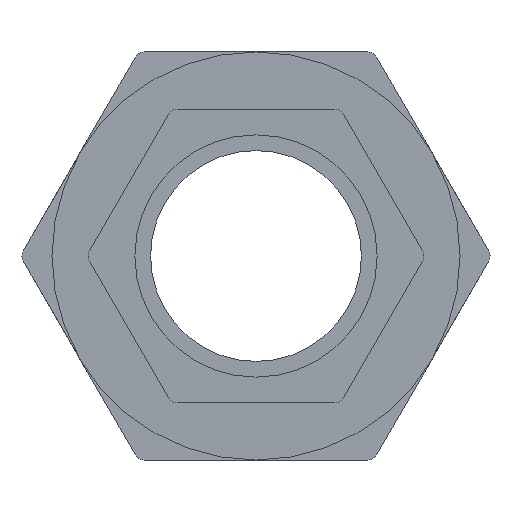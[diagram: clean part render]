
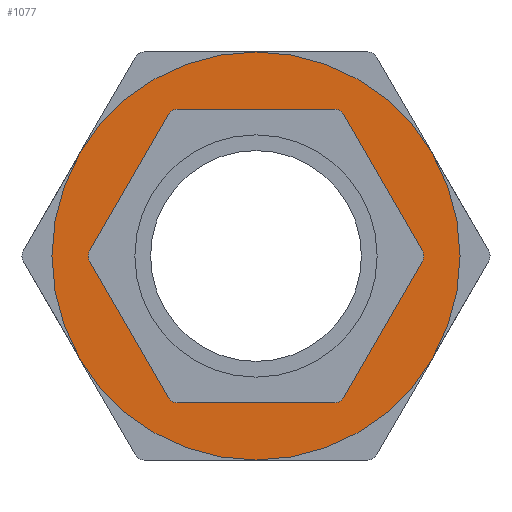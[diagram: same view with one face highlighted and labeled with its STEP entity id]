
A CAD part, left-side view. The second image highlights one B-rep face of the part: STEP entity #1077.
In plain terms, the highlighted planar face has unit normal (-1, 0, 0).
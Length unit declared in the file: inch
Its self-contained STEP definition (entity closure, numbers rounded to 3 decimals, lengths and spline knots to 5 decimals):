
#14=FACE_BOUND('',#184,.T.);
#62=CIRCLE('',#1176,2.);
#63=CIRCLE('',#1177,1.4375);
#124=FACE_OUTER_BOUND('',#183,.T.);
#183=EDGE_LOOP('',(#738));
#184=EDGE_LOOP('',(#739));
#439=VERTEX_POINT('',#1695);
#440=VERTEX_POINT('',#1697);
#556=EDGE_CURVE('',#439,#439,#62,.T.);
#557=EDGE_CURVE('',#440,#440,#63,.T.);
#738=ORIENTED_EDGE('',*,*,#556,.T.);
#739=ORIENTED_EDGE('',*,*,#557,.F.);
#975=PLANE('',#1175);
#1077=ADVANCED_FACE('',(#124,#14),#975,.F.);
#1175=AXIS2_PLACEMENT_3D('',#1694,#1366,#1367);
#1176=AXIS2_PLACEMENT_3D('',#1696,#1368,#1369);
#1177=AXIS2_PLACEMENT_3D('',#1698,#1370,#1371);
#1366=DIRECTION('center_axis',(1.,0.,0.));
#1367=DIRECTION('ref_axis',(0.,0.,-1.));
#1368=DIRECTION('center_axis',(-1.,0.,0.));
#1369=DIRECTION('ref_axis',(0.,0.,-1.));
#1370=DIRECTION('center_axis',(-1.,0.,0.));
#1371=DIRECTION('ref_axis',(0.,1.,0.));
#1694=CARTESIAN_POINT('Origin',(1.425,0.,0.));
#1695=CARTESIAN_POINT('',(1.425,0.,2.));
#1696=CARTESIAN_POINT('Origin',(1.425,0.,0.));
#1697=CARTESIAN_POINT('',(1.425,-1.4375,0.));
#1698=CARTESIAN_POINT('Origin',(1.425,0.,0.));
